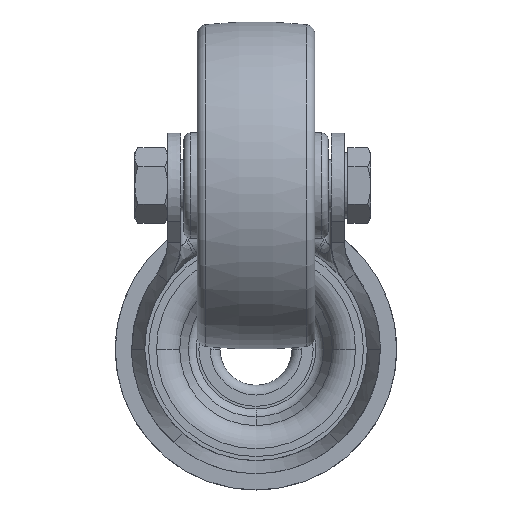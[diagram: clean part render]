
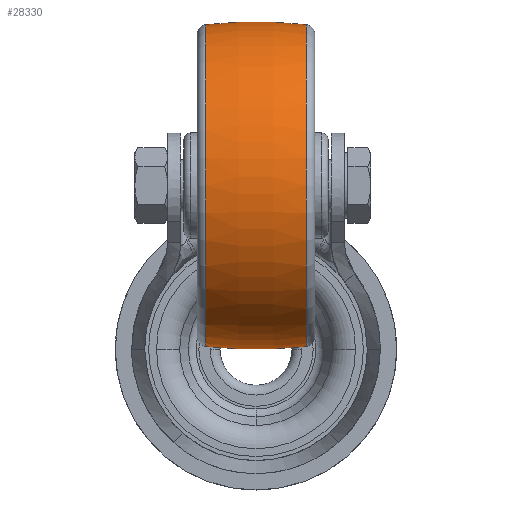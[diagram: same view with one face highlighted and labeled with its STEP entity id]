
A CAD part, front view. The second image highlights one B-rep face of the part: STEP entity #28330.
In plain terms, the highlighted toroidal (fillet/blend) face has major radius 45 mm and minor radius 70 mm.
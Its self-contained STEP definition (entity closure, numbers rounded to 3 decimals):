
#9127 = AXIS2_PLACEMENT_3D ( 'NONE', #12323, #12320, #12318 ) ;
#9129 = AXIS2_PLACEMENT_3D ( 'NONE', #12307, #12304, #12302 ) ;
#9131 = AXIS2_PLACEMENT_3D ( 'NONE', #12293, #12291, #12290 ) ;
#9132 = AXIS2_PLACEMENT_3D ( 'NONE', #12289, #12285, #12283 ) ;
#9897 = AXIS2_PLACEMENT_3D ( 'NONE', #16875, #16873, #16884 ) ;
#11768 = FACE_OUTER_BOUND ( 'NONE', #23535, .T. ) ;
#11775 = TOROIDAL_SURFACE ( 'NONE', #9897, -45., 70. ) ;
#12283 = DIRECTION ( 'NONE',  ( 0., 0., -1. ) ) ;
#12285 = DIRECTION ( 'NONE',  ( 0., -1., 0. ) ) ;
#12289 = CARTESIAN_POINT ( 'NONE',  ( 0., 0., -45. ) ) ;
#12290 = DIRECTION ( 'NONE',  ( 0., 0., 1. ) ) ;
#12291 = DIRECTION ( 'NONE',  ( 0., 1., 0. ) ) ;
#12293 = CARTESIAN_POINT ( 'NONE',  ( 0., 0., 45. ) ) ;
#12302 = DIRECTION ( 'NONE',  ( 0., 0., 1. ) ) ;
#12304 = DIRECTION ( 'NONE',  ( -1., 0., 0. ) ) ;
#12307 = CARTESIAN_POINT ( 'NONE',  ( 7.664, 0., 0. ) ) ;
#12318 = DIRECTION ( 'NONE',  ( 0., 0., 1. ) ) ;
#12320 = DIRECTION ( 'NONE',  ( -1., 0., 0. ) ) ;
#12323 = CARTESIAN_POINT ( 'NONE',  ( -7.664, 0., 0. ) ) ;
#15891 = ORIENTED_EDGE ( 'NONE', *, *, #20735, .F. ) ;
#15892 = ORIENTED_EDGE ( 'NONE', *, *, #20733, .T. ) ;
#15893 = ORIENTED_EDGE ( 'NONE', *, *, #20736, .T. ) ;
#15894 = ORIENTED_EDGE ( 'NONE', *, *, #20731, .F. ) ;
#16873 = DIRECTION ( 'NONE',  ( -1., 0., 0. ) ) ;
#16875 = CARTESIAN_POINT ( 'NONE',  ( 0., 0., 0. ) ) ;
#16884 = DIRECTION ( 'NONE',  ( 0., 0., 1. ) ) ;
#17993 = CIRCLE ( 'NONE', #9127, 24.579 ) ;
#17995 = CIRCLE ( 'NONE', #9129, 24.579 ) ;
#17997 = CIRCLE ( 'NONE', #9131, 70. ) ;
#17998 = CIRCLE ( 'NONE', #9132, 70. ) ;
#20731 = EDGE_CURVE ( 'NONE', #22449, #22446, #17993, .T. ) ;
#20733 = EDGE_CURVE ( 'NONE', #22428, #22433, #17995, .T. ) ;
#20735 = EDGE_CURVE ( 'NONE', #22428, #22449, #17997, .T. ) ;
#20736 = EDGE_CURVE ( 'NONE', #22433, #22446, #17998, .T. ) ;
#22428 = VERTEX_POINT ( 'NONE', #27777 ) ;
#22433 = VERTEX_POINT ( 'NONE', #27782 ) ;
#22446 = VERTEX_POINT ( 'NONE', #27795 ) ;
#22449 = VERTEX_POINT ( 'NONE', #27798 ) ;
#23535 = EDGE_LOOP ( 'NONE', ( #15891, #15892, #15893, #15894 ) ) ;
#27777 = CARTESIAN_POINT ( 'NONE',  ( 7.664, 0., -24.579 ) ) ;
#27782 = CARTESIAN_POINT ( 'NONE',  ( 7.664, 0., 24.579 ) ) ;
#27795 = CARTESIAN_POINT ( 'NONE',  ( -7.664, 0., 24.579 ) ) ;
#27798 = CARTESIAN_POINT ( 'NONE',  ( -7.664, 0., -24.579 ) ) ;
#28330 = ADVANCED_FACE ( 'NONE', ( #11768 ), #11775, .T. ) ;
